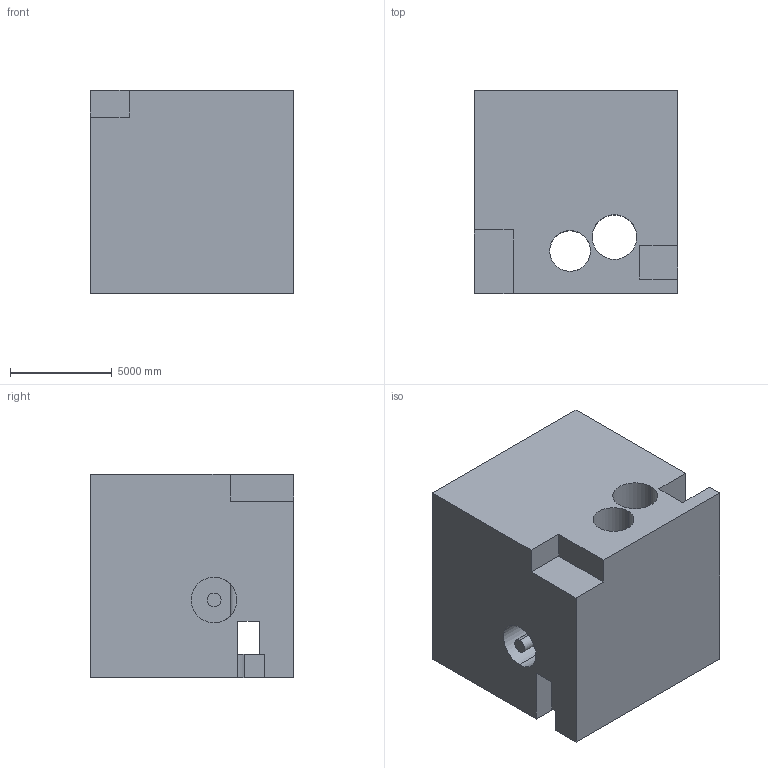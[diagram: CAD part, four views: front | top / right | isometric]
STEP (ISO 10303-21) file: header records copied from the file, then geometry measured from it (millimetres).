
FILE_DESCRIPTION (( 'STEP AP203' ), '1' );
FILE_NAME ('888.STEP', '2022-08-04T16:08:15', ( 'user' ), ( '' ), 'SwSTEP 2.0', 'SolidWorks 2021', '' );
FILE_SCHEMA (( 'CONFIG_CONTROL_DESIGN' ));
Length unit declared in the file: centimetre
Products named in the file (1): 888
Bounding box: 10000 x 10000 x 10000 mm (x, y, z)
Volume: 838620896064.7 mm3; surface area: 863134326.9 mm2
Topology: 1 solids, 1 shells, 46 faces, 131 edges, 87 vertices
Faces by surface type: plane 33, cylinder 13
Entity records: 1749 total; most frequent: CARTESIAN_POINT 418, DIRECTION 262, ORIENTED_EDGE 262, EDGE_CURVE 131, LINE 92, VECTOR 92, VERTEX_POINT 87, AXIS2_PLACEMENT_3D 85
